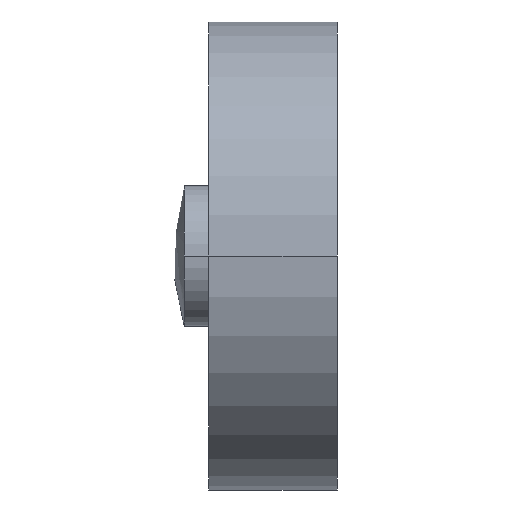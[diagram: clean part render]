
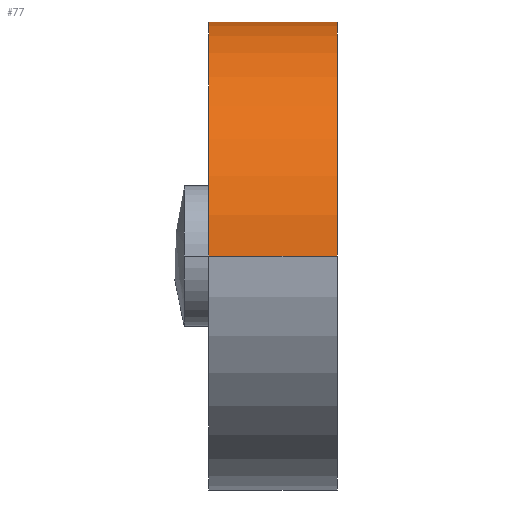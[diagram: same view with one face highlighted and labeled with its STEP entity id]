
A CAD part, left-side view. The second image highlights one B-rep face of the part: STEP entity #77.
In plain terms, the highlighted cylindrical face has radius 10 mm (diameter 20 mm), a partial arc.
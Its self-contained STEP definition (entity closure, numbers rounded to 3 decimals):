
#77=ADVANCED_FACE('',(#103),#104,.T.);
#103=FACE_OUTER_BOUND('',#153,.T.);
#104=CYLINDRICAL_SURFACE('',#154,10.0);
#153=EDGE_LOOP('',(#213,#214,#215,#216,#217,#218,#219));
#154=AXIS2_PLACEMENT_3D('',#220,#221,#222);
#213=ORIENTED_EDGE('',*,*,#384,.F.);
#214=ORIENTED_EDGE('',*,*,#385,.T.);
#215=ORIENTED_EDGE('',*,*,#386,.F.);
#216=ORIENTED_EDGE('',*,*,#387,.F.);
#217=ORIENTED_EDGE('',*,*,#388,.F.);
#218=ORIENTED_EDGE('',*,*,#389,.F.);
#219=ORIENTED_EDGE('',*,*,#390,.F.);
#220=CARTESIAN_POINT('',(0.0,2.75,0.0));
#221=DIRECTION('',(0.0,-1.0,0.0));
#222=DIRECTION('',(1.0,0.0,0.0));
#384=EDGE_CURVE('',#446,#447,#448,.T.);
#385=EDGE_CURVE('',#446,#449,#450,.T.);
#386=EDGE_CURVE('',#451,#449,#452,.T.);
#387=EDGE_CURVE('',#453,#451,#454,.T.);
#388=EDGE_CURVE('',#455,#453,#456,.T.);
#389=EDGE_CURVE('',#457,#455,#458,.T.);
#390=EDGE_CURVE('',#447,#457,#459,.T.);
#446=VERTEX_POINT('',#541);
#447=VERTEX_POINT('',#542);
#448=LINE('',#543,#544);
#449=VERTEX_POINT('',#545);
#450=CIRCLE('',#546,10.0);
#451=VERTEX_POINT('',#547);
#452=LINE('',#548,#549);
#453=VERTEX_POINT('',#550);
#454=CIRCLE('',#551,10.0);
#455=VERTEX_POINT('',#552);
#456=LINE('',#553,#554);
#457=VERTEX_POINT('',#555);
#458=B_SPLINE_CURVE_WITH_KNOTS('',3,(#556,#557,#558,#559,#560,#561,#562,#563,#564,#565,#566,#567),.UNSPECIFIED.,.F.,.F.,(4,2,2,2,2,4),(0.32,0.332,0.373,0.415,0.456,0.498),.UNSPECIFIED.);
#459=B_SPLINE_CURVE_WITH_KNOTS('',3,(#568,#569,#570,#571,#572,#573,#574,#575,#576,#577),.UNSPECIFIED.,.F.,.F.,(4,2,2,2,4),(0.166,0.207,0.249,0.29,0.32),.UNSPECIFIED.);
#541=CARTESIAN_POINT('',(10.0,5.5,0.0));
#542=CARTESIAN_POINT('',(10.0,3.2,0.));
#543=CARTESIAN_POINT('',(10.0,2.75,0.));
#544=VECTOR('',#682,1.0);
#545=CARTESIAN_POINT('',(-10.0,5.5,0.));
#546=AXIS2_PLACEMENT_3D('',#683,#684,#685);
#547=CARTESIAN_POINT('',(-10.0,0.0,0.));
#548=CARTESIAN_POINT('',(-10.0,2.75,0.));
#549=VECTOR('',#686,1.0);
#550=CARTESIAN_POINT('',(10.0,0.0,0.0));
#551=AXIS2_PLACEMENT_3D('',#687,#688,#689);
#552=CARTESIAN_POINT('',(10.0,1.,0.));
#553=CARTESIAN_POINT('',(10.0,2.75,0.));
#554=VECTOR('',#690,1.0);
#555=CARTESIAN_POINT('',(9.94,2.217,1.094));
#556=CARTESIAN_POINT('',(9.94,2.217,1.094));
#557=CARTESIAN_POINT('',(9.94,2.178,1.098));
#558=CARTESIAN_POINT('',(9.939,2.139,1.1));
#559=CARTESIAN_POINT('',(9.939,1.962,1.1));
#560=CARTESIAN_POINT('',(9.942,1.814,1.072));
#561=CARTESIAN_POINT('',(9.954,1.543,0.96));
#562=CARTESIAN_POINT('',(9.962,1.42,0.875));
#563=CARTESIAN_POINT('',(9.977,1.225,0.68));
#564=CARTESIAN_POINT('',(9.985,1.14,0.557));
#565=CARTESIAN_POINT('',(9.997,1.028,0.286));
#566=CARTESIAN_POINT('',(10.0,1.,0.138));
#567=CARTESIAN_POINT('',(10.0,1.,0.));
#568=CARTESIAN_POINT('',(10.0,3.2,0.));
#569=CARTESIAN_POINT('',(10.0,3.2,0.138));
#570=CARTESIAN_POINT('',(9.997,3.172,0.286));
#571=CARTESIAN_POINT('',(9.985,3.06,0.557));
#572=CARTESIAN_POINT('',(9.977,2.975,0.68));
#573=CARTESIAN_POINT('',(9.962,2.78,0.875));
#574=CARTESIAN_POINT('',(9.954,2.657,0.96));
#575=CARTESIAN_POINT('',(9.944,2.423,1.057));
#576=CARTESIAN_POINT('',(9.941,2.319,1.083));
#577=CARTESIAN_POINT('',(9.94,2.217,1.094));
#682=DIRECTION('',(0.0,-1.0,0.0));
#683=CARTESIAN_POINT('',(0.0,5.5,0.0));
#684=DIRECTION('',(0.0,-1.0,0.0));
#685=DIRECTION('',(1.0,0.0,0.0));
#686=DIRECTION('',(0.0,1.0,0.0));
#687=CARTESIAN_POINT('',(0.0,0.0,0.0));
#688=DIRECTION('',(0.0,-1.0,0.0));
#689=DIRECTION('',(1.0,0.0,0.0));
#690=DIRECTION('',(0.0,-1.0,0.0));
